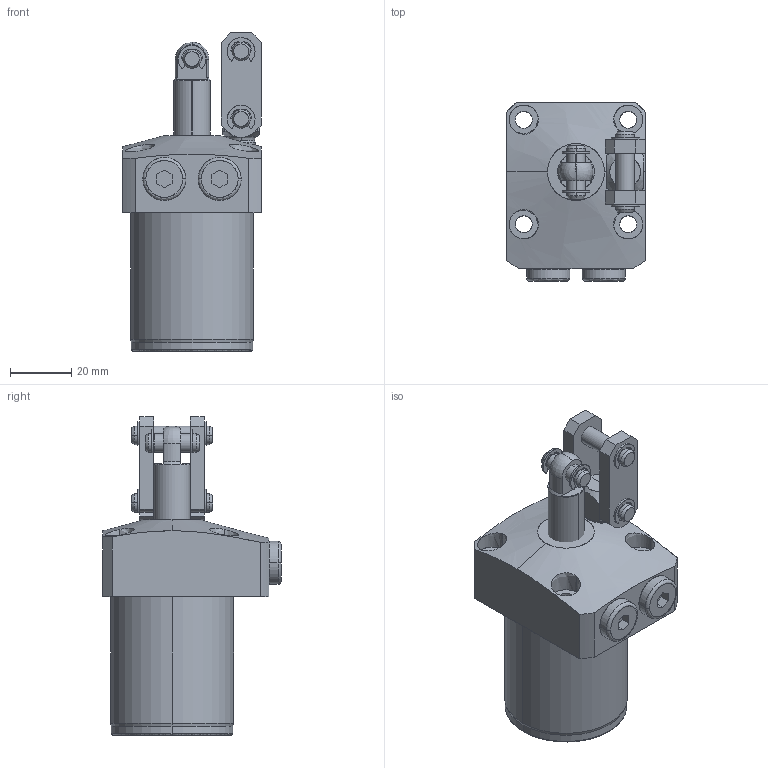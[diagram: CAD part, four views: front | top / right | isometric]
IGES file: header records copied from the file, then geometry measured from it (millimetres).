
Start section: SolidWorks IGES file using analytic representation for surfaces
Global section: file name: C:\Documents and Settings\nijil\My Documents\Clasys1\LQ Series\40\0401-0092.IGS; native system: SolidWorks 2010; preprocessor: SolidWorks 2010; author: nijil; date: 130723.125026; units: millimetre
Bounding box: 45 x 58 x 103.5 mm (x, y, z)
Surface area: 22200.1 mm2 (no closed solid volume)
Topology: 0 solids, 0 shells, 267 faces, 4307 edges, 4300 vertices
Faces by surface type: revolution 147, bspline 120
